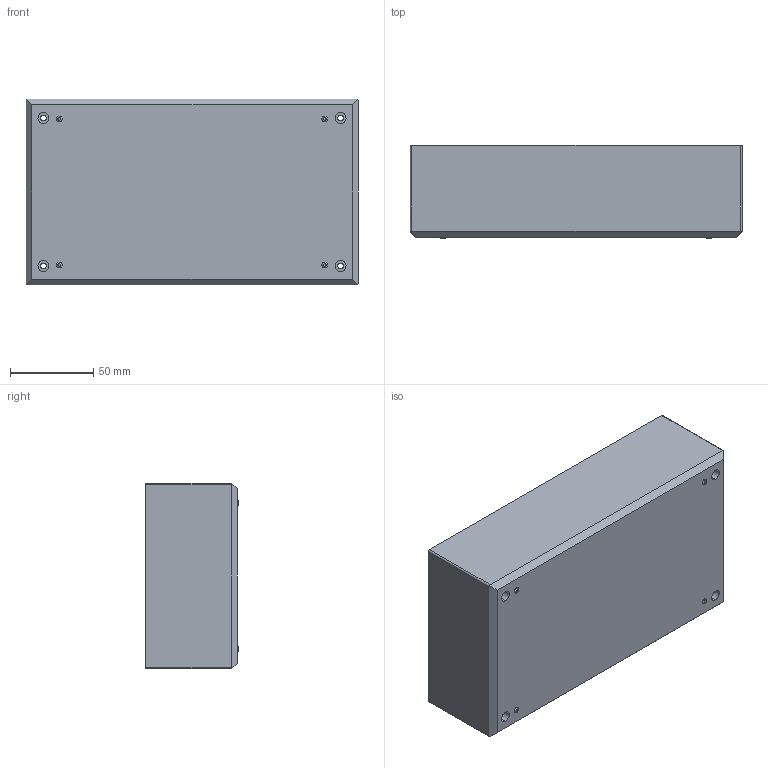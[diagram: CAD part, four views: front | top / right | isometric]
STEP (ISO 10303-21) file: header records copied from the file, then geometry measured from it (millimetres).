
FILE_DESCRIPTION (( 'STEP AP214' ), '1' );
FILE_NAME ('Cuerpo PP39.STEP', '2016-09-08T14:41:43', ( 'aaa' ), ( '' ), 'SwSTEP 2.0', 'SolidWorks 2013', '' );
FILE_SCHEMA (( 'AUTOMOTIVE_DESIGN' ));
Length unit declared in the file: millimetre
Products named in the file (1): Cuerpo PP39
Bounding box: 200 x 55.95 x 112 mm (x, y, z)
Volume: 201582.2 mm3; surface area: 120304.9 mm2
Topology: 1 solids, 1 shells, 131 faces, 296 edges, 196 vertices
Faces by surface type: cylinder 64, plane 59, torus 8
Entity records: 3780 total; most frequent: DIRECTION 700, CARTESIAN_POINT 660, ORIENTED_EDGE 592, EDGE_CURVE 296, AXIS2_PLACEMENT_3D 284, VERTEX_POINT 196, EDGE_LOOP 168, CIRCLE 152
